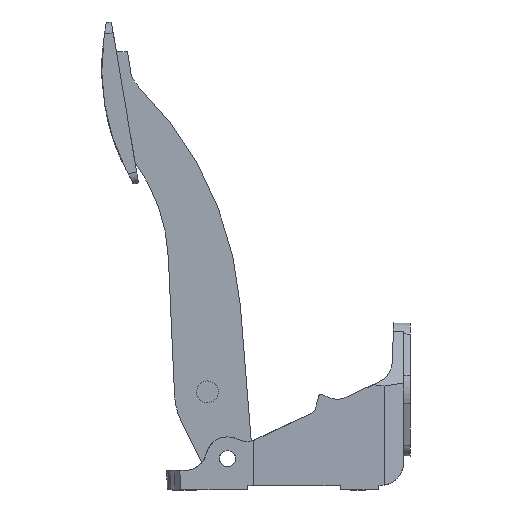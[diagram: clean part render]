
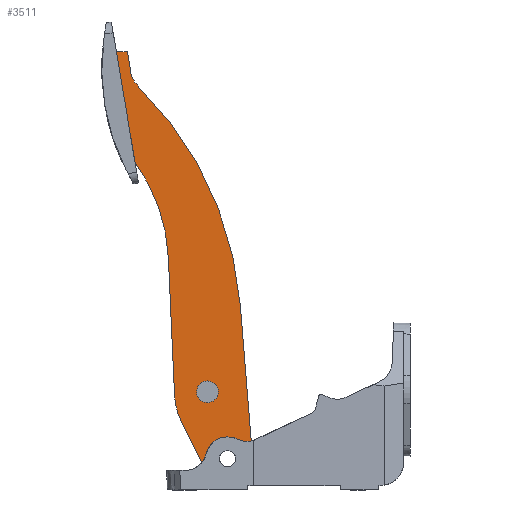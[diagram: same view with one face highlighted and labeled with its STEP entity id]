
A CAD part, left-side view. The second image highlights one B-rep face of the part: STEP entity #3511.
In plain terms, the highlighted planar face has unit normal (-1, 0, 0).
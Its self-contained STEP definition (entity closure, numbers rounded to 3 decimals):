
#214=CIRCLE('',#3752,6.35);
#215=CIRCLE('',#3755,6.356);
#216=CIRCLE('',#3757,38.1);
#217=CIRCLE('',#3760,14.605);
#218=CIRCLE('',#3763,203.2);
#219=CIRCLE('',#3765,12.7);
#225=CIRCLE('',#3777,101.6);
#895=ORIENTED_EDGE('',*,*,#1265,.T.);
#896=ORIENTED_EDGE('',*,*,#1238,.T.);
#897=ORIENTED_EDGE('',*,*,#1266,.F.);
#898=ORIENTED_EDGE('',*,*,#1263,.T.);
#899=ORIENTED_EDGE('',*,*,#1243,.T.);
#900=ORIENTED_EDGE('',*,*,#1246,.T.);
#901=ORIENTED_EDGE('',*,*,#1248,.T.);
#902=ORIENTED_EDGE('',*,*,#1250,.T.);
#903=ORIENTED_EDGE('',*,*,#1252,.T.);
#904=ORIENTED_EDGE('',*,*,#1254,.F.);
#905=ORIENTED_EDGE('',*,*,#1260,.T.);
#906=ORIENTED_EDGE('',*,*,#1242,.F.);
#907=ORIENTED_EDGE('',*,*,#1241,.T.);
#1238=EDGE_CURVE('',#1490,#1491,#1709,.T.);
#1241=EDGE_CURVE('',#1494,#1494,#214,.T.);
#1242=EDGE_CURVE('',#1495,#1495,#215,.T.);
#1243=EDGE_CURVE('',#1496,#1497,#216,.T.);
#1246=EDGE_CURVE('',#1497,#1498,#1712,.T.);
#1248=EDGE_CURVE('',#1498,#1499,#217,.T.);
#1250=EDGE_CURVE('',#1499,#1500,#1715,.T.);
#1252=EDGE_CURVE('',#1500,#1501,#218,.T.);
#1254=EDGE_CURVE('',#1502,#1501,#219,.T.);
#1260=EDGE_CURVE('',#1502,#1507,#1719,.T.);
#1263=EDGE_CURVE('',#1509,#1496,#1721,.T.);
#1265=EDGE_CURVE('',#1507,#1490,#1723,.T.);
#1266=EDGE_CURVE('',#1509,#1491,#225,.T.);
#1490=VERTEX_POINT('',#5468);
#1491=VERTEX_POINT('',#5470);
#1494=VERTEX_POINT('',#5480);
#1495=VERTEX_POINT('',#5484);
#1496=VERTEX_POINT('',#5487);
#1497=VERTEX_POINT('',#5488);
#1498=VERTEX_POINT('',#5493);
#1499=VERTEX_POINT('',#5497);
#1500=VERTEX_POINT('',#5501);
#1501=VERTEX_POINT('',#5505);
#1502=VERTEX_POINT('',#5509);
#1507=VERTEX_POINT('',#5523);
#1509=VERTEX_POINT('',#5529);
#1709=LINE('',#5471,#1914);
#1712=LINE('',#5492,#1917);
#1715=LINE('',#5500,#1920);
#1719=LINE('',#5522,#1924);
#1721=LINE('',#5528,#1926);
#1723=LINE('',#5532,#1928);
#1914=VECTOR('',#4421,1000.);
#1917=VECTOR('',#4448,1000.);
#1920=VECTOR('',#4457,1000.);
#1924=VECTOR('',#4483,1000.);
#1926=VECTOR('',#4489,1000.);
#1928=VECTOR('',#4493,1000.);
#2100=EDGE_LOOP('',(#895,#896,#897,#898,#899,#900,#901,#902,#903,#904,#905));
#2101=EDGE_LOOP('',(#906));
#2102=EDGE_LOOP('',(#907));
#2294=FACE_BOUND('',#2100,.T.);
#2295=FACE_BOUND('',#2101,.T.);
#2296=FACE_BOUND('',#2102,.T.);
#2386=PLANE('',#3778);
#3511=ADVANCED_FACE('',(#2294,#2295,#2296),#2386,.T.);
#3752=AXIS2_PLACEMENT_3D('',#5479,#4432,#4433);
#3755=AXIS2_PLACEMENT_3D('',#5483,#4438,#4439);
#3757=AXIS2_PLACEMENT_3D('',#5486,#4442,#4443);
#3760=AXIS2_PLACEMENT_3D('',#5496,#4452,#4453);
#3763=AXIS2_PLACEMENT_3D('',#5504,#4461,#4462);
#3765=AXIS2_PLACEMENT_3D('',#5508,#4466,#4467);
#3777=AXIS2_PLACEMENT_3D('',#5534,#4496,#4497);
#3778=AXIS2_PLACEMENT_3D('',#5535,#4498,#4499);
#4421=DIRECTION('',(0.,-0.167,-0.986));
#4432=DIRECTION('',(1.,0.,0.));
#4433=DIRECTION('',(0.,-0.045,-0.999));
#4438=DIRECTION('',(-1.,0.,0.));
#4439=DIRECTION('',(0.,0.045,0.999));
#4442=DIRECTION('',(-1.,0.,0.));
#4443=DIRECTION('',(0.,0.045,0.999));
#4448=DIRECTION('',(0.,-0.444,-0.896));
#4452=DIRECTION('',(-1.,0.,0.));
#4453=DIRECTION('',(0.,0.045,0.999));
#4457=DIRECTION('',(0.,0.08,0.997));
#4461=DIRECTION('',(-1.,0.,0.));
#4462=DIRECTION('',(0.,0.045,0.999));
#4466=DIRECTION('',(-1.,0.,0.));
#4467=DIRECTION('',(0.,0.045,0.999));
#4483=DIRECTION('',(0.,0.167,0.986));
#4489=DIRECTION('',(0.,-0.045,-0.999));
#4493=DIRECTION('',(0.,0.999,-0.045));
#4496=DIRECTION('',(-1.,0.,0.));
#4497=DIRECTION('',(0.,0.045,0.999));
#4498=DIRECTION('',(-1.,0.,0.));
#4499=DIRECTION('',(0.,0.045,0.999));
#5468=CARTESIAN_POINT('',(-12.903,171.529,256.905));
#5470=CARTESIAN_POINT('',(-12.903,160.637,192.401));
#5471=CARTESIAN_POINT('',(-12.903,136.967,52.23));
#5479=CARTESIAN_POINT('',(-12.903,118.357,58.568));
#5480=CARTESIAN_POINT('',(-12.903,118.071,52.225));
#5483=CARTESIAN_POINT('',(-12.903,106.68,19.558));
#5484=CARTESIAN_POINT('',(-12.903,106.967,25.908));
#5486=CARTESIAN_POINT('',(-12.903,99.517,58.02));
#5487=CARTESIAN_POINT('',(-12.903,137.579,56.302));
#5488=CARTESIAN_POINT('',(-12.903,133.656,41.104));
#5492=CARTESIAN_POINT('',(-12.903,119.767,13.073));
#5493=CARTESIAN_POINT('',(-12.903,119.767,13.073));
#5496=CARTESIAN_POINT('',(-12.903,106.68,19.558));
#5497=CARTESIAN_POINT('',(-12.903,92.122,20.725));
#5500=CARTESIAN_POINT('',(-12.903,92.122,20.725));
#5501=CARTESIAN_POINT('',(-12.903,99.191,108.887));
#5504=CARTESIAN_POINT('',(-12.903,301.741,92.644));
#5505=CARTESIAN_POINT('',(-12.903,159.41,237.668));
#5508=CARTESIAN_POINT('',(-12.903,150.515,246.732));
#5509=CARTESIAN_POINT('',(-12.903,163.037,244.618));
#5522=CARTESIAN_POINT('',(-12.903,165.161,257.192));
#5523=CARTESIAN_POINT('',(-12.903,165.161,257.192));
#5528=CARTESIAN_POINT('',(-12.903,141.227,137.114));
#5529=CARTESIAN_POINT('',(-12.903,141.227,137.114));
#5532=CARTESIAN_POINT('',(-12.903,174.597,256.766));
#5534=CARTESIAN_POINT('',(-12.903,242.723,132.532));
#5535=CARTESIAN_POINT('',(-12.903,118.214,55.396));
